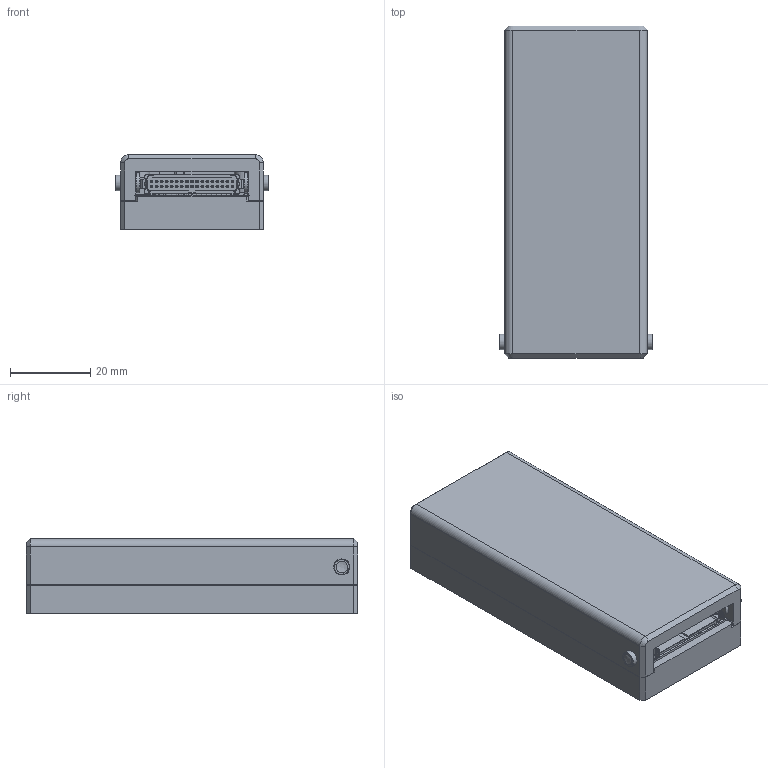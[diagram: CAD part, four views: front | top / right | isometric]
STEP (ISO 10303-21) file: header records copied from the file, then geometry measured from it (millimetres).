
FILE_DESCRIPTION(/* description */ (''),/* implementation_level */ '2;1');
FILE_NAME(/* name */ 'C:\Releases\CEX\MEX\BASIC-101010\BASIC-101010_website\3d_MEX - BASIC-101010.stp',/* time_stamp */ '2022-08-31T17:40:14+02:00',/* author */ ('jbs3'),/* organization */ (''),/* preprocessor_version */ 'ST-DEVELOPER v17',/* originating_system */ 'Autodesk Inventor 2018',/* authorisation */ '');
FILE_SCHEMA (('AUTOMOTIVE_DESIGN { 1 0 10303 214 3 1 1 }'));
Products named in the file (1): 000 Ensamblaje 3d_MEX - BASIC
Bounding box: 38 x 82.5 x 18.5 mm (x, y, z)
Volume: 25145.9 mm3; surface area: 29040.7 mm2
Topology: 43 solids, 43 shells, 2171 faces, 5697 edges, 3584 vertices
Faces by surface type: plane 1319, cylinder 536, bspline 106, torus 90, sphere 62, cone 58
Full cylindrical faces by diameter (mm): 0.2 x1, 0.25 x1, 0.4 x52, 0.55 x1, 1.2 x2, 2.459 x6, 3 x4, 3.2 x8, 3.85 x2, 4 x2, 4.8 x2, 5 x2, 6 x6
Entity records: 71783 total; most frequent: CARTESIAN_POINT 15143, DIRECTION 11451, ORIENTED_EDGE 11310, EDGE_CURVE 5655, LINE 3871, VECTOR 3871, AXIS2_PLACEMENT_3D 3790, VERTEX_POINT 3584
